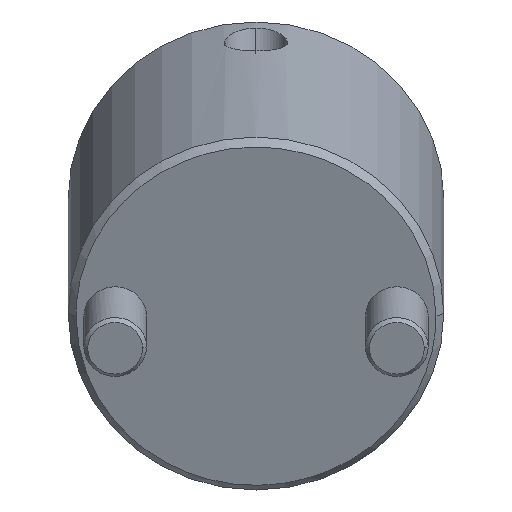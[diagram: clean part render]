
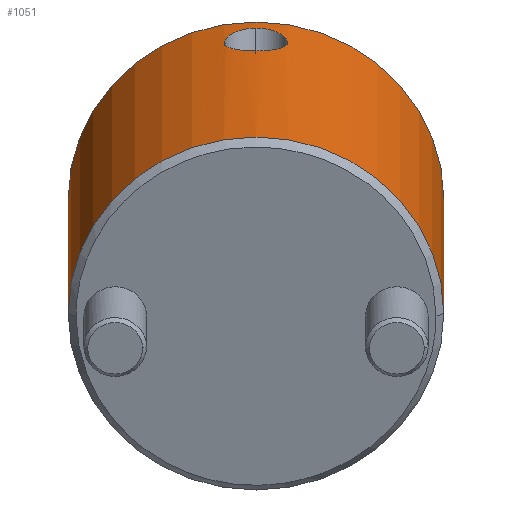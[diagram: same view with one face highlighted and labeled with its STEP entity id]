
A CAD part, front view. The second image highlights one B-rep face of the part: STEP entity #1051.
In plain terms, the highlighted cylindrical face has radius 24 mm (diameter 48 mm), a partial arc.
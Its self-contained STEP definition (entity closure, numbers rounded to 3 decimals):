
#802=CARTESIAN_POINT('Vertex',(0.,24.,1.)) ;
#805=CARTESIAN_POINT('Axis2P3D Location',(0.,0.,1.)) ;
#809=CARTESIAN_POINT('Vertex',(0.,-24.,1.)) ;
#961=CARTESIAN_POINT('Axis2P3D Location',(0.,0.,-2.25)) ;
#966=CARTESIAN_POINT('Line Origine',(0.,24.,-2.25)) ;
#970=CARTESIAN_POINT('Vertex',(0.,24.,44.)) ;
#973=CARTESIAN_POINT('Axis2P3D Location',(0.,0.,44.)) ;
#977=CARTESIAN_POINT('Vertex',(0.,-24.,44.)) ;
#980=CARTESIAN_POINT('Line Origine',(0.,-24.,-2.25)) ;
#992=CARTESIAN_POINT('Control Point',(24.,0.,41.721)) ;
#993=CARTESIAN_POINT('Control Point',(24.,0.376,41.721)) ;
#994=CARTESIAN_POINT('Control Point',(23.993,0.745,41.672)) ;
#995=CARTESIAN_POINT('Control Point',(23.978,1.106,41.575)) ;
#996=CARTESIAN_POINT('Control Point',(23.938,1.806,41.29)) ;
#997=CARTESIAN_POINT('Control Point',(23.88,2.43,40.838)) ;
#998=CARTESIAN_POINT('Control Point',(23.847,2.726,40.563)) ;
#999=CARTESIAN_POINT('Control Point',(23.797,3.127,40.093)) ;
#1000=CARTESIAN_POINT('Control Point',(23.752,3.442,39.557)) ;
#1001=CARTESIAN_POINT('Control Point',(23.738,3.538,39.372)) ;
#1002=CARTESIAN_POINT('Control Point',(23.699,3.792,38.8)) ;
#1003=CARTESIAN_POINT('Control Point',(23.673,3.949,38.191)) ;
#1004=CARTESIAN_POINT('Control Point',(23.663,4.009,37.776)) ;
#1005=CARTESIAN_POINT('Control Point',(23.659,4.032,36.837)) ;
#1006=CARTESIAN_POINT('Control Point',(23.695,3.819,35.939)) ;
#1007=CARTESIAN_POINT('Control Point',(23.725,3.633,35.475)) ;
#1008=CARTESIAN_POINT('Control Point',(23.793,3.181,34.705)) ;
#1009=CARTESIAN_POINT('Control Point',(23.868,2.542,34.09)) ;
#1010=CARTESIAN_POINT('Control Point',(23.9,2.227,33.856)) ;
#1011=CARTESIAN_POINT('Control Point',(23.951,1.613,33.506)) ;
#1012=CARTESIAN_POINT('Control Point',(23.985,0.939,33.3)) ;
#1013=CARTESIAN_POINT('Control Point',(23.995,0.629,33.238)) ;
#1014=CARTESIAN_POINT('Control Point',(24.,0.316,33.207)) ;
#1015=CARTESIAN_POINT('Control Point',(24.,0.,33.207)) ;
#1016=CARTESIAN_POINT('Vertex',(24.,0.,41.721)) ;
#1018=CARTESIAN_POINT('Vertex',(24.,0.,33.207)) ;
#1022=CARTESIAN_POINT('Control Point',(24.,0.,33.207)) ;
#1023=CARTESIAN_POINT('Control Point',(24.,-0.488,33.207)) ;
#1024=CARTESIAN_POINT('Control Point',(23.988,-0.968,33.281)) ;
#1025=CARTESIAN_POINT('Control Point',(23.963,-1.44,33.429)) ;
#1026=CARTESIAN_POINT('Control Point',(23.909,-2.144,33.776)) ;
#1027=CARTESIAN_POINT('Control Point',(23.845,-2.739,34.283)) ;
#1028=CARTESIAN_POINT('Control Point',(23.82,-2.944,34.493)) ;
#1029=CARTESIAN_POINT('Control Point',(23.755,-3.441,35.105)) ;
#1030=CARTESIAN_POINT('Control Point',(23.702,-3.779,35.825)) ;
#1031=CARTESIAN_POINT('Control Point',(23.677,-3.924,36.308)) ;
#1032=CARTESIAN_POINT('Control Point',(23.659,-4.029,37.024)) ;
#1033=CARTESIAN_POINT('Control Point',(23.666,-3.989,37.747)) ;
#1034=CARTESIAN_POINT('Control Point',(23.67,-3.966,37.955)) ;
#1035=CARTESIAN_POINT('Control Point',(23.685,-3.879,38.47)) ;
#1036=CARTESIAN_POINT('Control Point',(23.71,-3.72,38.967)) ;
#1037=CARTESIAN_POINT('Control Point',(23.729,-3.601,39.257)) ;
#1038=CARTESIAN_POINT('Control Point',(23.765,-3.361,39.724)) ;
#1039=CARTESIAN_POINT('Control Point',(23.805,-3.059,40.147)) ;
#1040=CARTESIAN_POINT('Control Point',(23.821,-2.929,40.309)) ;
#1041=CARTESIAN_POINT('Control Point',(23.886,-2.382,40.913)) ;
#1042=CARTESIAN_POINT('Control Point',(23.947,-1.721,41.359)) ;
#1043=CARTESIAN_POINT('Control Point',(23.981,-1.177,41.597)) ;
#1044=CARTESIAN_POINT('Control Point',(24.,-0.597,41.721)) ;
#1045=CARTESIAN_POINT('Control Point',(24.,0.,41.721)) ;
#806=DIRECTION('Axis2P3D Direction',(0.,0.,1.)) ;
#962=DIRECTION('Axis2P3D Direction',(0.,-0.,1.)) ;
#963=DIRECTION('Axis2P3D XDirection',(0.,-1.,0.)) ;
#967=DIRECTION('Vector Direction',(0.,0.,1.)) ;
#974=DIRECTION('Axis2P3D Direction',(0.,-0.,1.)) ;
#981=DIRECTION('Vector Direction',(0.,0.,1.)) ;
#807=AXIS2_PLACEMENT_3D('Circle Axis2P3D',#805,#806,$) ;
#964=AXIS2_PLACEMENT_3D('Cylinder Axis2P3D',#961,#962,#963) ;
#975=AXIS2_PLACEMENT_3D('Circle Axis2P3D',#973,#974,$) ;
#986=ORIENTED_EDGE('',*,*,#972,.F.) ;
#987=ORIENTED_EDGE('',*,*,#979,.T.) ;
#988=ORIENTED_EDGE('',*,*,#984,.T.) ;
#989=ORIENTED_EDGE('',*,*,#811,.F.) ;
#1048=ORIENTED_EDGE('',*,*,#1020,.T.) ;
#1049=ORIENTED_EDGE('',*,*,#1046,.T.) ;
#1050=FACE_BOUND('',#1047,.T.) ;
#968=VECTOR('Line Direction',#967,1.) ;
#982=VECTOR('Line Direction',#981,1.) ;
#1051=ADVANCED_FACE('MANIFOLD_SOLID_BREP #1138',(#990,#1050),#965,.T.) ;
#991=B_SPLINE_CURVE_WITH_KNOTS('',5,(#992,#993,#994,#995,#996,#997,#998,#999,#1000,#1001,#1002,#1003,#1004,#1005,#1006,#1007,#1008,#1009,#1010,#1011,#1012,#1013,#1014,#1015),.UNSPECIFIED.,.F.,.U.,(6,3,3,3,3,3,3,6),(0.,2.693,5.516,6.952,9.815,13.339,16.131,18.389),.UNSPECIFIED.) ;
#1021=B_SPLINE_CURVE_WITH_KNOTS('',5,(#1022,#1023,#1024,#1025,#1026,#1027,#1028,#1029,#1030,#1031,#1032,#1033,#1034,#1035,#1036,#1037,#1038,#1039,#1040,#1041,#1042,#1043,#1044,#1045),.UNSPECIFIED.,.F.,.U.,(6,3,3,3,3,3,3,6),(0.,3.488,5.589,9.113,10.538,12.7,14.12,18.39),.UNSPECIFIED.) ;
#808=CIRCLE('generated circle',#807,24.) ;
#976=CIRCLE('generated circle',#975,24.) ;
#965=CYLINDRICAL_SURFACE('generated cylinder',#964,24.) ;
#811=EDGE_CURVE('',#803,#810,#808,.F.) ;
#972=EDGE_CURVE('',#971,#803,#969,.F.) ;
#979=EDGE_CURVE('',#971,#978,#976,.F.) ;
#984=EDGE_CURVE('',#978,#810,#983,.F.) ;
#1020=EDGE_CURVE('',#1017,#1019,#991,.T.) ;
#1046=EDGE_CURVE('',#1019,#1017,#1021,.T.) ;
#985=EDGE_LOOP('',(#986,#987,#988,#989)) ;
#1047=EDGE_LOOP('',(#1048,#1049)) ;
#990=FACE_OUTER_BOUND('',#985,.T.) ;
#969=LINE('Line',#966,#968) ;
#983=LINE('Line',#980,#982) ;
#803=VERTEX_POINT('',#802) ;
#810=VERTEX_POINT('',#809) ;
#971=VERTEX_POINT('',#970) ;
#978=VERTEX_POINT('',#977) ;
#1017=VERTEX_POINT('',#1016) ;
#1019=VERTEX_POINT('',#1018) ;
